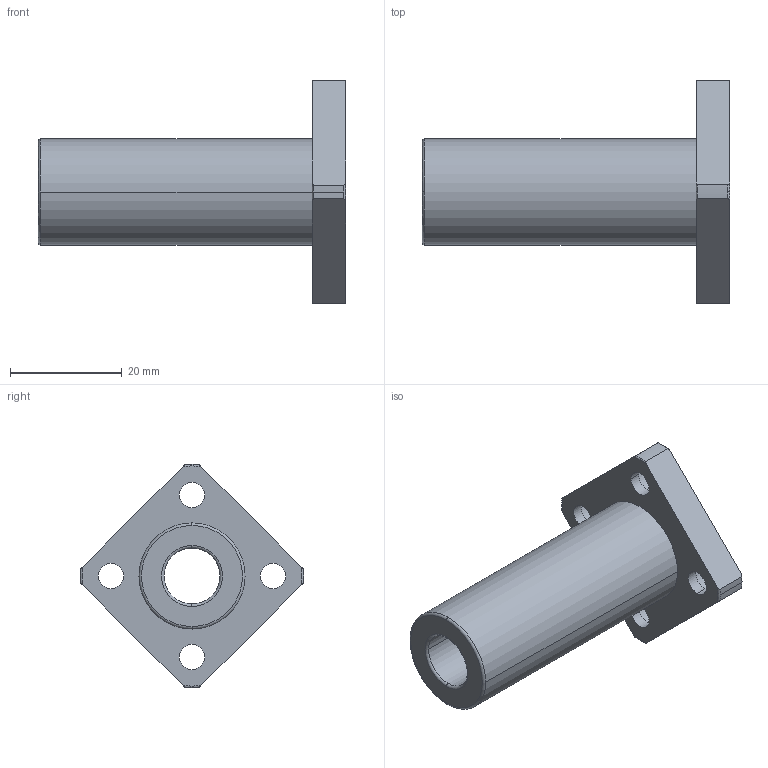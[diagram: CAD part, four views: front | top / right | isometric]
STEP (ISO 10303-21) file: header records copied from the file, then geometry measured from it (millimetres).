
FILE_DESCRIPTION(('FreeCAD Model'),'2;1');
FILE_NAME('Open CASCADE Shape Model','2021-05-03T15:12:55',('Author'),( ''),'Open CASCADE STEP processor 7.5','FreeCAD','Unknown');
FILE_SCHEMA(('AUTOMOTIVE_DESIGN { 1 0 10303 214 1 1 1 1 }'));
Length unit declared in the file: millimetre
Products named in the file (1): linear_lmk10luu
Bounding box: 55 x 40 x 40 mm (x, y, z)
Volume: 14086 mm3; surface area: 7318.8 mm2
Topology: 1 solids, 1 shells, 55 faces, 147 edges, 99 vertices
Faces by surface type: cylinder 26, torus 18, plane 11
Entity records: 4837 total; most frequent: CARTESIAN_POINT 1912, DIRECTION 560, ORIENTED_EDGE 294, PCURVE 294, DEFINITIONAL_REPRESENTATION 294, LINE 245, VECTOR 245, AXIS2_PLACEMENT_3D 149
